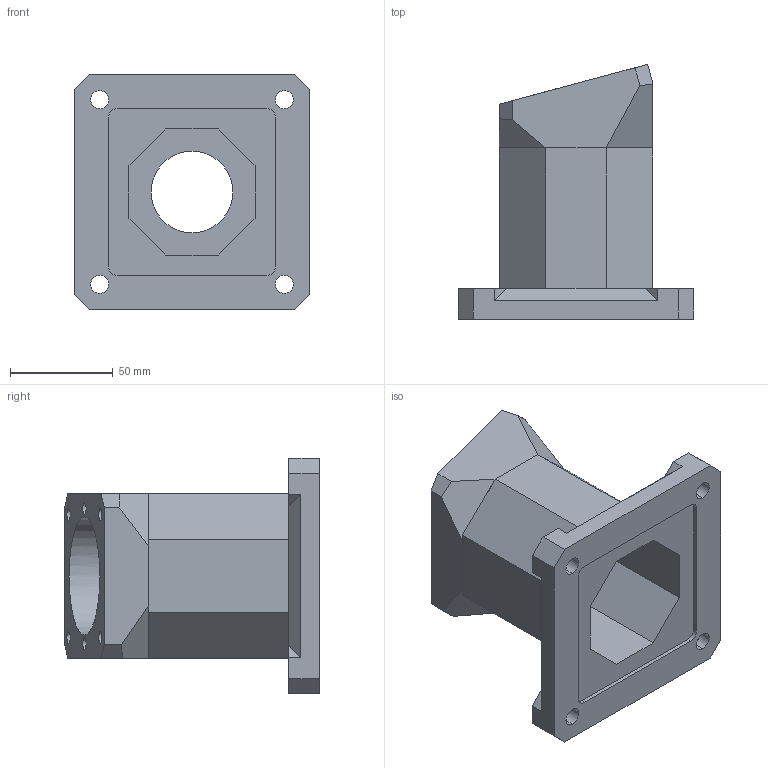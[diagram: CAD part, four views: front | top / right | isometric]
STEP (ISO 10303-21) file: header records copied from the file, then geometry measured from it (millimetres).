
FILE_DESCRIPTION (( 'STEP AP214' ), '1' );
FILE_NAME ('ccs2rbb15lg.STEP', '2007-06-25T15:18:13', ( '' ), ( '' ), 'SwSTEP 2.0', 'SolidWorks 2007', '' );
FILE_SCHEMA (( 'AUTOMOTIVE_DESIGN' ));
Length unit declared in the file: inch
Products named in the file (3): coupling_15deg; ccs2rbb15lg; base
Assembly tree (2 placements, depth 2):
  ccs2rbb15lg
    base
    coupling_15deg
Bounding box: 115 x 124.31 x 115 mm (x, y, z)
Volume: 355513.4 mm3; surface area: 86445 mm2
Topology: 2 solids, 2 shells, 111 faces, 274 edges, 180 vertices
Faces by surface type: plane 75, cylinder 36
Entity records: 3396 total; most frequent: CARTESIAN_POINT 576, DIRECTION 574, ORIENTED_EDGE 548, EDGE_CURVE 274, VECTOR 202, LINE 202, AXIS2_PLACEMENT_3D 186, VERTEX_POINT 180
